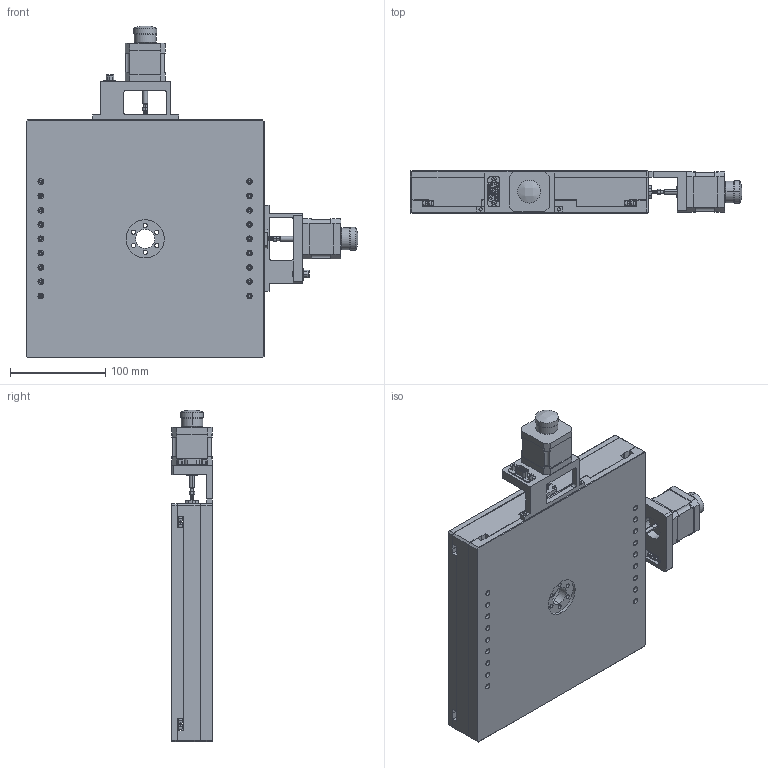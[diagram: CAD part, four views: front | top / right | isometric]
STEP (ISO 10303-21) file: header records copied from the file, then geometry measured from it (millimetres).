
FILE_DESCRIPTION (( 'STEP AP214' ), '1' );
FILE_NAME ('PT-XY15T.STEP', '2023-01-07T06:21:29', ( '' ), ( '' ), 'SwSTEP 2.0', 'SolidWorks 2017', '' );
FILE_SCHEMA (( 'AUTOMOTIVE_DESIGN' ));
Length unit declared in the file: millimetre
Products named in the file (13): DB9Z蟀諉ん釱; 0-笢潔啣; VR2-135-23Z-1蝠脫幗翐絳寢; 0-聆峚芛釱; SL-003忒謫24x18-5; PT-XY15T; VR2-135-23Z蝠脫幗翐絳寢萵; SFKR0401-DGC5-108-P1幗紩佪裝萵; 0-菁啣; SFK00401佪裝; 42BYG-40-1.8-1.5A邧堤粣祭輛萇儂; SFK00401蹟譫; 0-怢醱
Assembly tree (21 placements, depth 3):
  PT-XY15T
    0-菁啣
    0-笢潔啣
    0-怢醱
    VR2-135-23Z蝠脫幗翐絳寢萵  x2
      VR2-135-23Z-1蝠脫幗翐絳寢
    0-聆峚芛釱  x2
    42BYG-40-1.8-1.5A邧堤粣祭輛萇儂  x2
    SFKR0401-DGC5-108-P1幗紩佪裝萵  x2
      SFK00401佪裝
      SFK00401蹟譫
    SL-003忒謫24x18-5  x2
    DB9Z蟀諉ん釱  x2
Bounding box: 348.3 x 44 x 348.3 mm (x, y, z)
Volume: 2748841.5 mm3; surface area: 532456.6 mm2
Topology: 27 solids, 27 shells, 2278 faces, 5795 edges, 3670 vertices
Faces by surface type: cylinder 962, plane 800, cone 404, bspline 112
Entity records: 44383 total; most frequent: CARTESIAN_POINT 17645, ORIENTED_EDGE 5462, DIRECTION 5365, EDGE_CURVE 2731, AXIS2_PLACEMENT_3D 1928, VERTEX_POINT 1779, VECTOR 1509, LINE 1509
